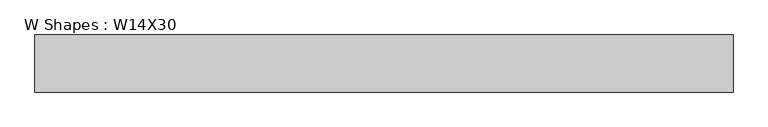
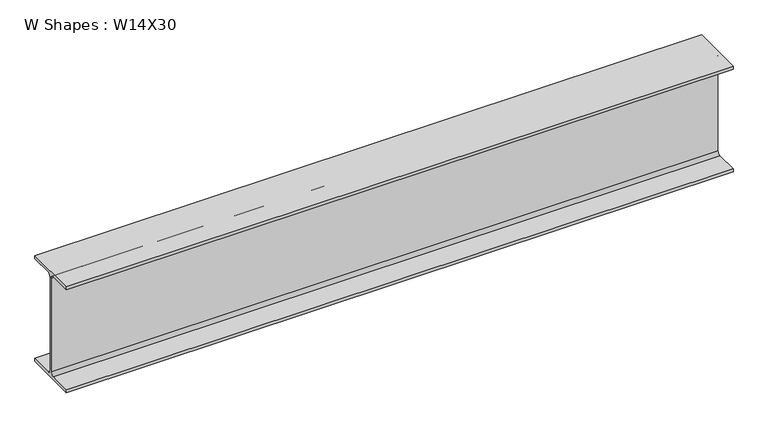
"""IFC4 building model written with IfcOpenShell, lengths in millimetres: beam geometry, W Shapes : W14X30."""

from ifc_helpers import new_model, si_unit, point, frame, frame_2d, origin, place, context, project, spatial, polyline, circle_curve, trimmed, segment, composite_curve, outline, extrude, source, transform, mapped, element, save


def w_shapes_w14x30_2e50e1af(model_context):
    return source(origin(), model_context, "Body", "SweptSolid", [
        extrude(outline(composite_curve([segment(polyline([(85.471, -165.354), (85.471, -175.26), (-85.471, -175.26), (-85.471, -165.354), (-13.589, -165.354)]), True, "CONTINUOUS"), segment(trimmed(circle_curve(frame_2d((-13.589, -155.194)), 10.16), [point((-13.589, -165.354))], [point((-3.429, -155.194))], True, "CARTESIAN"), True, "CONTINUOUS"), segment(polyline([(-3.429, -155.194), (-3.429, 155.194)]), True, "CONTINUOUS"), segment(trimmed(circle_curve(frame_2d((-13.589, 155.194)), 10.16), [point((-3.429, 155.194))], [point((-13.589, 165.354))], True, "CARTESIAN"), True, "CONTINUOUS"), segment(polyline([(-13.589, 165.354), (-85.471, 165.354), (-85.471, 175.26), (85.471, 175.26), (85.471, 165.354), (13.589, 165.354)]), True, "CONTINUOUS"), segment(trimmed(circle_curve(frame_2d((13.589, 155.194)), 10.16), [point((13.589, 165.354))], [point((3.429, 155.194))], True, "CARTESIAN"), True, "CONTINUOUS"), segment(polyline([(3.429, 155.194), (3.429, -155.194)]), True, "CONTINUOUS"), segment(trimmed(circle_curve(frame_2d((13.589, -155.194)), 10.16), [point((3.429, -155.194))], [point((13.589, -165.354))], True, "CARTESIAN"), True, "CONTINUOUS"), segment(polyline([(13.589, -165.354), (85.471, -165.354)]), True, "CONTINUOUS")], self_intersect=False)), frame((-1045.1225149, 0.0, 0.0), z_axis=(1.0, 0.0, 0.0), x_axis=(0.0, 1.0, 0.0)), (0.0, 0.0, 1.0), 2090.2450297),
    ])


if __name__ == "__main__":
    model = new_model("IFC4")
    model_context = context("Model", 3, world=origin())
    ifc_project = project(units=[si_unit("LENGTHUNIT", "METRE", prefix="MILLI")], contexts=[model_context])
    site = spatial("IfcSite", under=ifc_project)
    building = spatial("IfcBuilding", under=site)
    placement = place(None, origin())
    w_shapes_w14x30_shape = w_shapes_w14x30_2e50e1af(model_context)
    element("IfcBeam", 1, ObjectType="W Shapes : W14X30", at=placement, inside=building, context=model_context, shape_type="MappedRepresentation", body=[
        mapped(w_shapes_w14x30_shape, transform((0.0, 0.0, 0.0), x_axis=(1.0, 0.0, 0.0), y_axis=(0.0, 1.0, 0.0), z_axis=(0.0, 0.0, 1.0))),
    ])
    save(model, "model.ifc")
